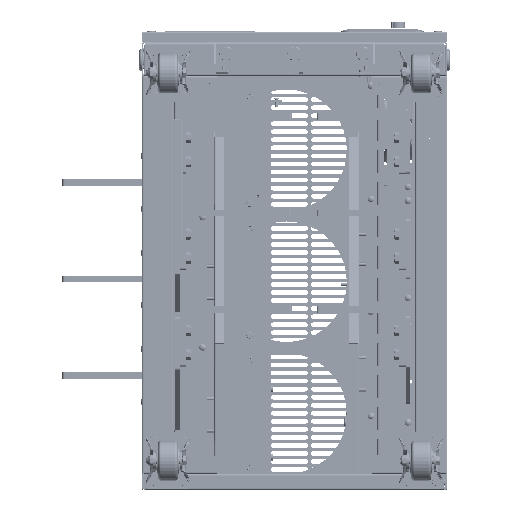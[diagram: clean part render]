
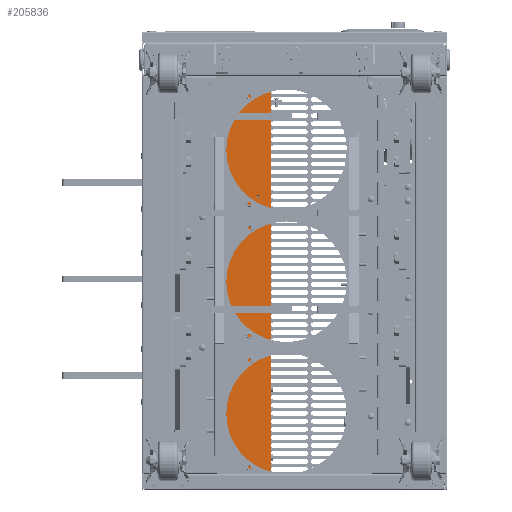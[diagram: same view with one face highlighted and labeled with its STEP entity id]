
A CAD part, front view. The second image highlights one B-rep face of the part: STEP entity #205836.
In plain terms, the highlighted planar face has unit normal (0.766, -0.643, 0) as drawn and (0, -0.643, -0.766) by its records, which use the part's own axes.
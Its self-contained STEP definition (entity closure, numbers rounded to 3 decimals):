
#192040=DIRECTION('',(1.,0.,0.));
#192041=VECTOR('',#192040,513.);
#192042=CARTESIAN_POINT('',(0.,-672.613,0.515));
#192043=LINE('',#192042,#192041);
#192428=DIRECTION('',(-1.,0.,0.));
#192429=VECTOR('',#192428,2.2);
#192430=CARTESIAN_POINT('',(513.,-674.145,1.8));
#192431=LINE('',#192430,#192429);
#192440=DIRECTION('',(0.,0.766,-0.643));
#192441=VECTOR('',#192440,2.);
#192442=CARTESIAN_POINT('',(513.,-674.145,1.8));
#192443=LINE('',#192442,#192441);
#192444=DIRECTION('',(1.,0.,0.));
#192445=VECTOR('',#192444,2.2);
#192446=CARTESIAN_POINT('',(0.,-674.145,1.8));
#192447=LINE('',#192446,#192445);
#192448=DIRECTION('',(0.,0.766,
-0.643));
#192449=VECTOR('',#192448,2.);
#192450=CARTESIAN_POINT('',(513.,-766.093,78.953));
#192451=LINE('',#192450,#192449);
#192452=DIRECTION('',(-1.,0.,0.));
#192453=VECTOR('',#192452,2.2);
#192454=CARTESIAN_POINT('',(513.,-764.561,77.668));
#192455=LINE('',#192454,#192453);
#192456=CARTESIAN_POINT('',(362.98,-692.146,16.904));
#192457=DIRECTION('',(0.,-0.643,-0.766));
#192458=DIRECTION('',(1.,0.,0.));
#192459=AXIS2_PLACEMENT_3D('',#192456,#192457,#192458);
#192461=CARTESIAN_POINT('',(362.98,-692.146,16.904));
#192462=DIRECTION('',(0.,-0.643,-0.766));
#192463=DIRECTION('',(-1.,0.,0.));
#192464=AXIS2_PLACEMENT_3D('',#192461,#192462,#192463);
#192466=CARTESIAN_POINT('',(362.98,-744.237,60.614));
#192467=DIRECTION('',(0.,-0.643,-0.766));
#192468=DIRECTION('',(1.,0.,0.));
#192469=AXIS2_PLACEMENT_3D('',#192466,#192467,#192468);
#192471=CARTESIAN_POINT('',(362.98,-744.237,60.614));
#192472=DIRECTION('',(0.,-0.643,-0.766));
#192473=DIRECTION('',(-1.,0.,0.));
#192474=AXIS2_PLACEMENT_3D('',#192471,#192472,#192473);
#192480=DIRECTION('',(0.,-0.766,0.643));
#192481=VECTOR('',#192480,118.029);
#192482=CARTESIAN_POINT('',(510.8,-674.145,1.8));
#192483=LINE('',#192482,#192481);
#192684=DIRECTION('',(-1.,0.,0.));
#192685=VECTOR('',#192684,513.);
#192686=CARTESIAN_POINT('',(513.,-766.093,78.953));
#192687=LINE('',#192686,#192685);
#192706=DIRECTION('',(0.,0.766,-0.643));
#192707=VECTOR('',#192706,2.);
#192708=CARTESIAN_POINT('',(0.,-766.093,78.953));
#192709=LINE('',#192708,#192707);
#192710=DIRECTION('',(1.,0.,0.));
#192711=VECTOR('',#192710,2.2);
#192712=CARTESIAN_POINT('',(0.,-764.561,77.668));
#192713=LINE('',#192712,#192711);
#192844=DIRECTION('',(0.,0.766,-0.643));
#192845=VECTOR('',#192844,118.029);
#192846=CARTESIAN_POINT('',(2.2,-764.561,77.668));
#192847=LINE('',#192846,#192845);
#192878=DIRECTION('',(0.,0.766,-0.643));
#192879=VECTOR('',#192878,2.);
#192880=CARTESIAN_POINT('',(0.,-674.145,1.8));
#192881=LINE('',#192880,#192879);
#200200=CARTESIAN_POINT('',(0.,-672.613,0.515));
#200202=VERTEX_POINT('',#200200);
#200204=CARTESIAN_POINT('',(513.,-672.613,0.515));
#200205=VERTEX_POINT('',#200204);
#200293=CARTESIAN_POINT('',(513.,-764.561,77.668));
#200295=VERTEX_POINT('',#200293);
#200296=CARTESIAN_POINT('',(513.,-766.093,78.953));
#200297=VERTEX_POINT('',#200296);
#200301=CARTESIAN_POINT('',(513.,-674.145,1.8));
#200303=VERTEX_POINT('',#200301);
#200304=CARTESIAN_POINT('',(510.8,-764.561,77.668));
#200305=VERTEX_POINT('',#200304);
#200308=CARTESIAN_POINT('',(510.8,-674.145,1.8));
#200309=VERTEX_POINT('',#200308);
#200310=CARTESIAN_POINT('',(0.,-674.145,1.8));
#200311=VERTEX_POINT('',#200310);
#200312=CARTESIAN_POINT('',(2.2,-674.145,1.8));
#200313=VERTEX_POINT('',#200312);
#200314=CARTESIAN_POINT('',(2.2,-764.561,77.668));
#200315=VERTEX_POINT('',#200314);
#200316=CARTESIAN_POINT('',(0.,-764.561,77.668));
#200317=VERTEX_POINT('',#200316);
#200318=CARTESIAN_POINT('',(0.,-766.093,78.953));
#200319=VERTEX_POINT('',#200318);
#200320=CARTESIAN_POINT('',(365.08,-692.146,16.904));
#200321=CARTESIAN_POINT('',(360.88,-692.146,16.904));
#200322=VERTEX_POINT('',#200320);
#200323=VERTEX_POINT('',#200321);
#200324=CARTESIAN_POINT('',(365.08,-744.237,60.614));
#200325=CARTESIAN_POINT('',(360.88,-744.237,60.614));
#200326=VERTEX_POINT('',#200324);
#200327=VERTEX_POINT('',#200325);
#205796=CARTESIAN_POINT('',(0.,-672.613,0.515));
#205797=DIRECTION('',(0.,0.643,0.766));
#205798=DIRECTION('',(0.,-0.766,0.643));
#205799=AXIS2_PLACEMENT_3D('',#205796,#205797,#205798);
#205800=PLANE('',#205799);
#205802=ORIENTED_EDGE('',*,*,#205801,.F.);
#205803=ORIENTED_EDGE('',*,*,#205786,.F.);
#205804=ORIENTED_EDGE('',*,*,#205776,.T.);
#205805=ORIENTED_EDGE('',*,*,#205260,.F.);
#205807=ORIENTED_EDGE('',*,*,#205806,.F.);
#205809=ORIENTED_EDGE('',*,*,#205808,.T.);
#205811=ORIENTED_EDGE('',*,*,#205810,.F.);
#205813=ORIENTED_EDGE('',*,*,#205812,.F.);
#205815=ORIENTED_EDGE('',*,*,#205814,.F.);
#205817=ORIENTED_EDGE('',*,*,#205816,.F.);
#205819=ORIENTED_EDGE('',*,*,#205818,.T.);
#205821=ORIENTED_EDGE('',*,*,#205820,.T.);
#205822=EDGE_LOOP('',(#205802,#205803,#205804,#205805,#205807,#205809,#205811,
#205813,#205815,#205817,#205819,#205821));
#205823=FACE_OUTER_BOUND('',#205822,.F.);
#205825=ORIENTED_EDGE('',*,*,#205824,.T.);
#205827=ORIENTED_EDGE('',*,*,#205826,.T.);
#205828=EDGE_LOOP('',(#205825,#205827));
#205829=FACE_BOUND('',#205828,.F.);
#205831=ORIENTED_EDGE('',*,*,#205830,.T.);
#205833=ORIENTED_EDGE('',*,*,#205832,.T.);
#205834=EDGE_LOOP('',(#205831,#205833));
#205835=FACE_BOUND('',#205834,.F.);
#205836=ADVANCED_FACE('',(#205823,#205829,#205835),#205800,.F.);
#192460=CIRCLE('',#192459,2.1);
#192465=CIRCLE('',#192464,2.1);
#192470=CIRCLE('',#192469,2.1);
#192475=CIRCLE('',#192474,2.1);
#205260=EDGE_CURVE('',#200202,#200205,#192043,.T.);
#205776=EDGE_CURVE('',#200303,#200205,#192443,.T.);
#205786=EDGE_CURVE('',#200303,#200309,#192431,.T.);
#205801=EDGE_CURVE('',#200309,#200305,#192483,.T.);
#205806=EDGE_CURVE('',#200311,#200202,#192881,.T.);
#205808=EDGE_CURVE('',#200311,#200313,#192447,.T.);
#205810=EDGE_CURVE('',#200315,#200313,#192847,.T.);
#205812=EDGE_CURVE('',#200317,#200315,#192713,.T.);
#205814=EDGE_CURVE('',#200319,#200317,#192709,.T.);
#205816=EDGE_CURVE('',#200297,#200319,#192687,.T.);
#205818=EDGE_CURVE('',#200297,#200295,#192451,.T.);
#205820=EDGE_CURVE('',#200295,#200305,#192455,.T.);
#205824=EDGE_CURVE('',#200322,#200323,#192460,.T.);
#205826=EDGE_CURVE('',#200323,#200322,#192465,.T.);
#205830=EDGE_CURVE('',#200326,#200327,#192470,.T.);
#205832=EDGE_CURVE('',#200327,#200326,#192475,.T.);
